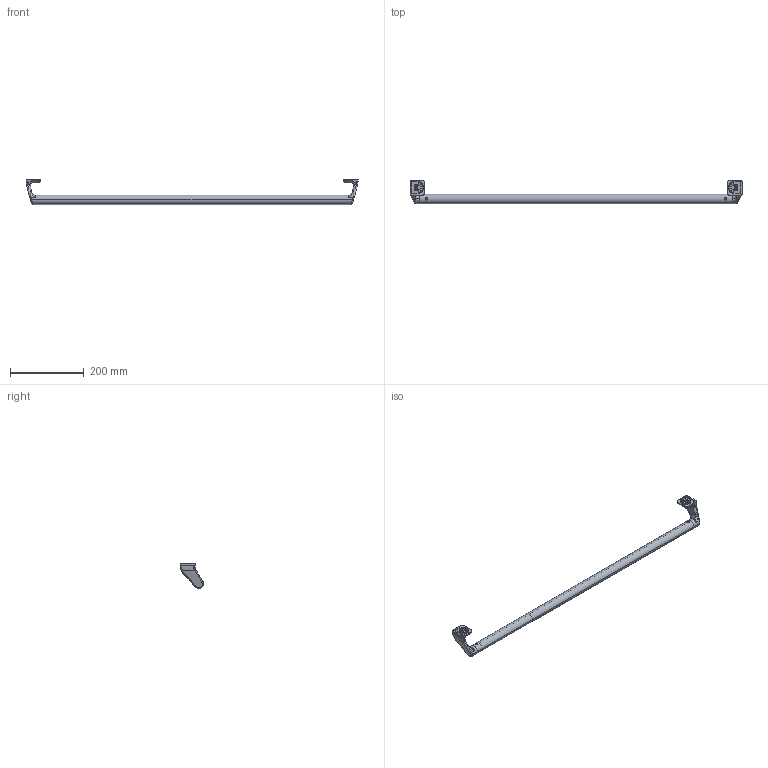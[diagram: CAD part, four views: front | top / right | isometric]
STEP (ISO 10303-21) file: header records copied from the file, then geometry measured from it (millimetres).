
FILE_DESCRIPTION (( 'STEP AP214' ), '1' );
FILE_NAME ('A73 KA-1223-7.STEP', '2016-11-24T02:37:02', ( '' ), ( '' ), 'SwSTEP 2.0', 'SolidWorks 2011', '' );
FILE_SCHEMA (( 'AUTOMOTIVE_DESIGN' ));
Length unit declared in the file: millimetre
Products named in the file (1): A73 KA-1223-7
Bounding box: 900 x 62.8 x 67.8 mm (x, y, z)
Volume: 185532.8 mm3; surface area: 150125.6 mm2
Topology: 1 solids, 1 shells, 520 faces, 1374 edges, 876 vertices
Faces by surface type: plane 254, bspline 146, cylinder 92, cone 28
Entity records: 23944 total; most frequent: CARTESIAN_POINT 12019, ORIENTED_EDGE 2724, DIRECTION 1936, EDGE_CURVE 1362, VERTEX_POINT 876, VECTOR 850, LINE 850, EDGE_LOOP 566
